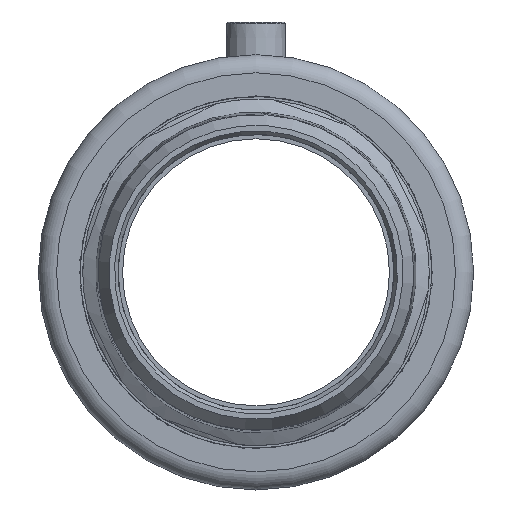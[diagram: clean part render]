
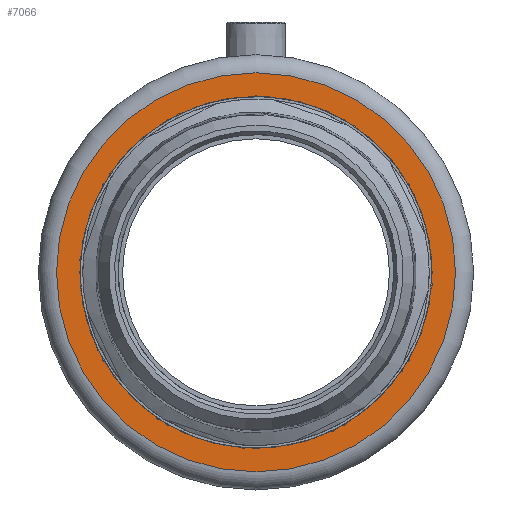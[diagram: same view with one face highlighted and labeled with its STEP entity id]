
A CAD part, left-side view. The second image highlights one B-rep face of the part: STEP entity #7066.
In plain terms, the highlighted planar face has unit normal (-1, 0, 0).
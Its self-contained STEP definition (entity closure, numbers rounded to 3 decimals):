
#348=PLANE('',#9088);
#648=CIRCLE('',#8695,48.5);
#654=CIRCLE('',#8714,0.5);
#655=CIRCLE('',#8717,0.5);
#658=CIRCLE('',#8725,48.5);
#664=CIRCLE('',#8744,0.5);
#665=CIRCLE('',#8748,48.5);
#671=CIRCLE('',#8767,0.5);
#672=CIRCLE('',#8771,0.5);
#674=CIRCLE('',#8775,48.5);
#684=CIRCLE('',#8788,48.5);
#699=CIRCLE('',#8841,0.5);
#700=CIRCLE('',#8845,48.5);
#706=CIRCLE('',#8864,0.5);
#707=CIRCLE('',#8867,0.5);
#708=CIRCLE('',#8871,48.5);
#712=CIRCLE('',#8879,48.5);
#719=CIRCLE('',#8907,48.5);
#725=CIRCLE('',#8926,0.5);
#726=CIRCLE('',#8929,0.5);
#728=CIRCLE('',#8937,48.5);
#734=CIRCLE('',#8956,0.5);
#735=CIRCLE('',#8959,0.5);
#736=CIRCLE('',#8963,48.5);
#740=CIRCLE('',#8971,48.5);
#799=CIRCLE('',#9089,55.);
#2101=ORIENTED_EDGE('',*,*,#3644,.F.);
#2102=ORIENTED_EDGE('',*,*,#3615,.F.);
#2103=ORIENTED_EDGE('',*,*,#3604,.F.);
#2104=ORIENTED_EDGE('',*,*,#3576,.T.);
#2105=ORIENTED_EDGE('',*,*,#3607,.F.);
#2106=ORIENTED_EDGE('',*,*,#3533,.F.);
#2107=ORIENTED_EDGE('',*,*,#3515,.F.);
#2108=ORIENTED_EDGE('',*,*,#3520,.F.);
#2109=ORIENTED_EDGE('',*,*,#3512,.F.);
#2110=ORIENTED_EDGE('',*,*,#3483,.F.);
#2111=ORIENTED_EDGE('',*,*,#3478,.F.);
#2112=ORIENTED_EDGE('',*,*,#3381,.F.);
#2113=ORIENTED_EDGE('',*,*,#3376,.F.);
#2114=ORIENTED_EDGE('',*,*,#3421,.F.);
#2115=ORIENTED_EDGE('',*,*,#3370,.T.);
#2116=ORIENTED_EDGE('',*,*,#3342,.T.);
#2117=ORIENTED_EDGE('',*,*,#3338,.F.);
#2118=ORIENTED_EDGE('',*,*,#3309,.F.);
#2119=ORIENTED_EDGE('',*,*,#3295,.F.);
#2120=ORIENTED_EDGE('',*,*,#3267,.T.);
#2121=ORIENTED_EDGE('',*,*,#3299,.F.);
#2122=ORIENTED_EDGE('',*,*,#3665,.F.);
#2123=ORIENTED_EDGE('',*,*,#3647,.F.);
#2124=ORIENTED_EDGE('',*,*,#3652,.F.);
#2125=ORIENTED_EDGE('',*,*,#3789,.T.);
#3267=EDGE_CURVE('',#4377,#4376,#648,.T.);
#3295=EDGE_CURVE('',#4377,#4396,#654,.T.);
#3299=EDGE_CURVE('',#4398,#4376,#655,.T.);
#3309=EDGE_CURVE('',#4396,#4405,#658,.T.);
#3338=EDGE_CURVE('',#4405,#4424,#664,.T.);
#3342=EDGE_CURVE('',#4427,#4424,#665,.T.);
#3370=EDGE_CURVE('',#4446,#4427,#671,.T.);
#3376=EDGE_CURVE('',#4450,#4447,#672,.T.);
#3381=EDGE_CURVE('',#4447,#4455,#674,.T.);
#3421=EDGE_CURVE('',#4446,#4450,#684,.T.);
#3478=EDGE_CURVE('',#4455,#4518,#699,.T.);
#3483=EDGE_CURVE('',#4518,#4521,#700,.T.);
#3512=EDGE_CURVE('',#4521,#4540,#706,.T.);
#3515=EDGE_CURVE('',#4542,#4543,#707,.T.);
#3520=EDGE_CURVE('',#4540,#4542,#708,.T.);
#3533=EDGE_CURVE('',#4543,#4557,#712,.T.);
#3576=EDGE_CURVE('',#4586,#4585,#719,.T.);
#3604=EDGE_CURVE('',#4586,#4605,#725,.T.);
#3607=EDGE_CURVE('',#4557,#4585,#726,.T.);
#3615=EDGE_CURVE('',#4605,#4609,#728,.T.);
#3644=EDGE_CURVE('',#4609,#4628,#734,.T.);
#3647=EDGE_CURVE('',#4630,#4631,#735,.T.);
#3652=EDGE_CURVE('',#4628,#4630,#736,.T.);
#3665=EDGE_CURVE('',#4631,#4398,#740,.T.);
#3789=EDGE_CURVE('',#4726,#4726,#799,.T.);
#4376=VERTEX_POINT('',#11567);
#4377=VERTEX_POINT('',#11569);
#4396=VERTEX_POINT('',#11698);
#4398=VERTEX_POINT('',#11710);
#4405=VERTEX_POINT('',#11765);
#4424=VERTEX_POINT('',#11897);
#4427=VERTEX_POINT('',#11915);
#4446=VERTEX_POINT('',#12044);
#4447=VERTEX_POINT('',#12060);
#4450=VERTEX_POINT('',#12068);
#4455=VERTEX_POINT('',#12087);
#4518=VERTEX_POINT('',#12573);
#4521=VERTEX_POINT('',#12594);
#4540=VERTEX_POINT('',#12726);
#4542=VERTEX_POINT('',#12740);
#4543=VERTEX_POINT('',#12742);
#4557=VERTEX_POINT('',#12822);
#4585=VERTEX_POINT('',#13008);
#4586=VERTEX_POINT('',#13010);
#4605=VERTEX_POINT('',#13139);
#4609=VERTEX_POINT('',#13194);
#4628=VERTEX_POINT('',#13326);
#4630=VERTEX_POINT('',#13340);
#4631=VERTEX_POINT('',#13342);
#4726=VERTEX_POINT('',#13995);
#5983=EDGE_LOOP('',(#2101,#2102,#2103,#2104,#2105,#2106,#2107,#2108,#2109,
#2110,#2111,#2112,#2113,#2114,#2115,#2116,#2117,#2118,#2119,#2120,#2121,
#2122,#2123,#2124));
#5984=EDGE_LOOP('',(#2125));
#6503=FACE_BOUND('',#5983,.T.);
#6504=FACE_BOUND('',#5984,.T.);
#7066=ADVANCED_FACE('',(#6503,#6504),#348,.T.);
#8695=AXIS2_PLACEMENT_3D('',#11568,#9690,#9691);
#8714=AXIS2_PLACEMENT_3D('',#11697,#9728,#9729);
#8717=AXIS2_PLACEMENT_3D('',#11711,#9734,#9735);
#8725=AXIS2_PLACEMENT_3D('',#11764,#9750,#9751);
#8744=AXIS2_PLACEMENT_3D('',#11898,#9788,#9789);
#8748=AXIS2_PLACEMENT_3D('',#11914,#9796,#9797);
#8767=AXIS2_PLACEMENT_3D('',#12043,#9834,#9835);
#8771=AXIS2_PLACEMENT_3D('',#12069,#9842,#9843);
#8775=AXIS2_PLACEMENT_3D('',#12086,#9850,#9851);
#8788=AXIS2_PLACEMENT_3D('',#12297,#9876,#9877);
#8841=AXIS2_PLACEMENT_3D('',#12572,#9982,#9983);
#8845=AXIS2_PLACEMENT_3D('',#12593,#9990,#9991);
#8864=AXIS2_PLACEMENT_3D('',#12727,#10028,#10029);
#8867=AXIS2_PLACEMENT_3D('',#12741,#10034,#10035);
#8871=AXIS2_PLACEMENT_3D('',#12758,#10042,#10043);
#8879=AXIS2_PLACEMENT_3D('',#12821,#10058,#10059);
#8907=AXIS2_PLACEMENT_3D('',#13009,#10114,#10115);
#8926=AXIS2_PLACEMENT_3D('',#13138,#10152,#10153);
#8929=AXIS2_PLACEMENT_3D('',#13146,#10158,#10159);
#8937=AXIS2_PLACEMENT_3D('',#13193,#10174,#10175);
#8956=AXIS2_PLACEMENT_3D('',#13327,#10212,#10213);
#8959=AXIS2_PLACEMENT_3D('',#13341,#10218,#10219);
#8963=AXIS2_PLACEMENT_3D('',#13358,#10226,#10227);
#8971=AXIS2_PLACEMENT_3D('',#13421,#10242,#10243);
#9088=AXIS2_PLACEMENT_3D('',#13993,#10486,#10487);
#9089=AXIS2_PLACEMENT_3D('',#13994,#10488,#10489);
#9690=DIRECTION('',(1.,0.,0.));
#9691=DIRECTION('',(0.,0.,-1.));
#9728=DIRECTION('',(-1.,0.,0.));
#9729=DIRECTION('',(0.,0.,1.));
#9734=DIRECTION('',(-1.,0.,0.));
#9735=DIRECTION('',(0.,0.,1.));
#9750=DIRECTION('',(-1.,0.,0.));
#9751=DIRECTION('',(0.,0.,1.));
#9788=DIRECTION('',(-1.,0.,0.));
#9789=DIRECTION('',(0.,0.,1.));
#9796=DIRECTION('',(1.,0.,0.));
#9797=DIRECTION('',(0.,0.,-1.));
#9834=DIRECTION('',(1.,0.,0.));
#9835=DIRECTION('',(0.,0.,-1.));
#9842=DIRECTION('',(-1.,0.,0.));
#9843=DIRECTION('',(0.,0.,1.));
#9850=DIRECTION('',(-1.,0.,0.));
#9851=DIRECTION('',(0.,0.,1.));
#9876=DIRECTION('',(-1.,0.,0.));
#9877=DIRECTION('',(0.,0.,1.));
#9982=DIRECTION('',(-1.,0.,0.));
#9983=DIRECTION('',(0.,0.,1.));
#9990=DIRECTION('',(-1.,0.,0.));
#9991=DIRECTION('',(0.,0.,1.));
#10028=DIRECTION('',(-1.,0.,0.));
#10029=DIRECTION('',(0.,0.,1.));
#10034=DIRECTION('',(-1.,0.,0.));
#10035=DIRECTION('',(0.,0.,1.));
#10042=DIRECTION('',(-1.,0.,0.));
#10043=DIRECTION('',(0.,0.,1.));
#10058=DIRECTION('',(-1.,0.,0.));
#10059=DIRECTION('',(0.,0.,1.));
#10114=DIRECTION('',(1.,0.,0.));
#10115=DIRECTION('',(0.,0.,-1.));
#10152=DIRECTION('',(-1.,0.,0.));
#10153=DIRECTION('',(0.,0.,1.));
#10158=DIRECTION('',(-1.,0.,0.));
#10159=DIRECTION('',(0.,0.,1.));
#10174=DIRECTION('',(-1.,0.,0.));
#10175=DIRECTION('',(0.,0.,1.));
#10212=DIRECTION('',(-1.,0.,0.));
#10213=DIRECTION('',(0.,0.,1.));
#10218=DIRECTION('',(-1.,0.,0.));
#10219=DIRECTION('',(0.,0.,1.));
#10226=DIRECTION('',(-1.,0.,0.));
#10227=DIRECTION('',(0.,0.,1.));
#10242=DIRECTION('',(-1.,0.,0.));
#10243=DIRECTION('',(0.,0.,1.));
#10486=DIRECTION('',(-1.,0.,0.));
#10487=DIRECTION('',(0.,0.,1.));
#10488=DIRECTION('',(-1.,0.,0.));
#10489=DIRECTION('',(0.,0.,1.));
#11567=CARTESIAN_POINT('',(0.,23.917,-42.193));
#11568=CARTESIAN_POINT('',(0.,0.,0.));
#11569=CARTESIAN_POINT('',(0.,0.384,-48.498));
#11697=CARTESIAN_POINT('',(0.,0.,-48.178));
#11698=CARTESIAN_POINT('',(0.,-0.384,-48.498));
#11710=CARTESIAN_POINT('',(0.,24.582,-41.809));
#11711=CARTESIAN_POINT('',(0.,24.089,-41.723));
#11764=CARTESIAN_POINT('',(0.,0.,0.));
#11765=CARTESIAN_POINT('',(0.,-23.917,-42.193));
#11897=CARTESIAN_POINT('',(0.,-24.582,-41.809));
#11898=CARTESIAN_POINT('',(0.,-24.089,-41.723));
#11914=CARTESIAN_POINT('',(0.,0.,0.));
#11915=CARTESIAN_POINT('',(0.,-41.809,-24.582));
#12043=CARTESIAN_POINT('',(0.,-41.723,-24.089));
#12044=CARTESIAN_POINT('',(0.,-42.193,-23.917));
#12060=CARTESIAN_POINT('',(0.,-48.498,0.384));
#12068=CARTESIAN_POINT('',(0.,-48.498,-0.384));
#12069=CARTESIAN_POINT('',(0.,-48.178,0.));
#12086=CARTESIAN_POINT('',(0.,0.,0.));
#12087=CARTESIAN_POINT('',(0.,-42.193,23.917));
#12297=CARTESIAN_POINT('',(0.,0.,0.));
#12572=CARTESIAN_POINT('',(0.,-41.723,24.089));
#12573=CARTESIAN_POINT('',(0.,-41.809,24.582));
#12593=CARTESIAN_POINT('',(0.,0.,0.));
#12594=CARTESIAN_POINT('',(0.,-24.582,41.809));
#12726=CARTESIAN_POINT('',(0.,-23.917,42.193));
#12727=CARTESIAN_POINT('',(0.,-24.089,41.723));
#12740=CARTESIAN_POINT('',(0.,-0.384,48.498));
#12741=CARTESIAN_POINT('',(0.,0.,48.178));
#12742=CARTESIAN_POINT('',(0.,0.384,48.498));
#12758=CARTESIAN_POINT('',(0.,0.,0.));
#12821=CARTESIAN_POINT('',(0.,0.,0.));
#12822=CARTESIAN_POINT('',(0.,23.917,42.193));
#13008=CARTESIAN_POINT('',(0.,24.582,41.809));
#13009=CARTESIAN_POINT('',(0.,0.,0.));
#13010=CARTESIAN_POINT('',(0.,41.809,24.582));
#13138=CARTESIAN_POINT('',(0.,41.723,24.089));
#13139=CARTESIAN_POINT('',(0.,42.193,23.917));
#13146=CARTESIAN_POINT('',(0.,24.089,41.723));
#13193=CARTESIAN_POINT('',(0.,0.,0.));
#13194=CARTESIAN_POINT('',(0.,48.498,0.384));
#13326=CARTESIAN_POINT('',(0.,48.498,-0.384));
#13327=CARTESIAN_POINT('',(0.,48.178,0.));
#13340=CARTESIAN_POINT('',(0.,42.193,-23.917));
#13341=CARTESIAN_POINT('',(0.,41.723,-24.089));
#13342=CARTESIAN_POINT('',(0.,41.809,-24.582));
#13358=CARTESIAN_POINT('',(0.,0.,0.));
#13421=CARTESIAN_POINT('',(0.,0.,0.));
#13993=CARTESIAN_POINT('',(0.,0.,42.8));
#13994=CARTESIAN_POINT('',(0.,0.,0.));
#13995=CARTESIAN_POINT('',(0.,0.,55.));
